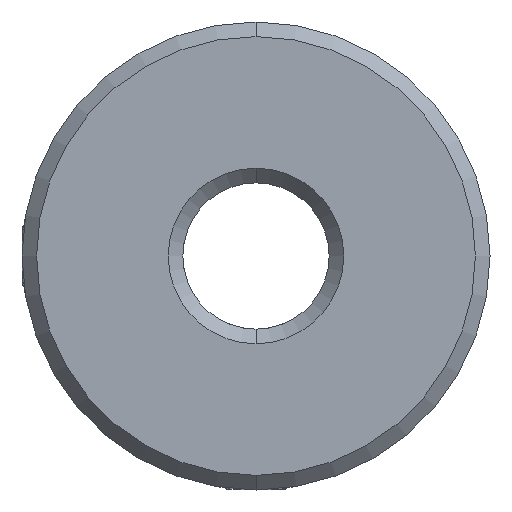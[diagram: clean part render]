
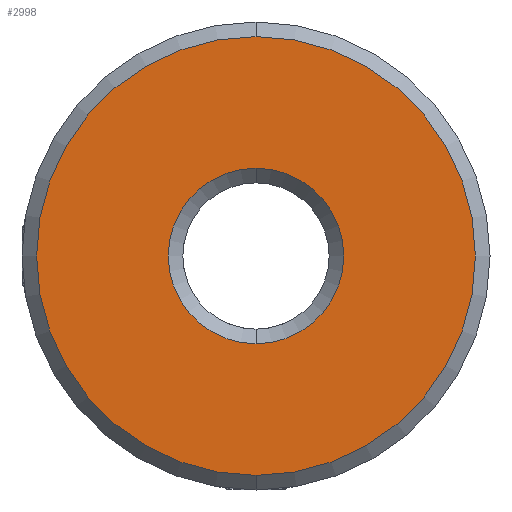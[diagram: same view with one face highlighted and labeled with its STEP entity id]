
A CAD part, front view. The second image highlights one B-rep face of the part: STEP entity #2998.
In plain terms, the highlighted planar face has unit normal (0, -1, 0).
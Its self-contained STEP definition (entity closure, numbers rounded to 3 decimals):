
#2 = EDGE_CURVE ( 'NONE', #2264, #1281, #2505, .T. ) ;
#184 = DIRECTION ( 'NONE',  ( 0., 0., 1. ) ) ;
#228 = CARTESIAN_POINT ( 'NONE',  ( -10.188, -12.277, -2.954 ) ) ;
#344 = DIRECTION ( 'NONE',  ( 0., 1., 0. ) ) ;
#420 = CARTESIAN_POINT ( 'NONE',  ( -10.188, -12.277, 0.046 ) ) ;
#486 = CARTESIAN_POINT ( 'NONE',  ( -10.188, -12.277, 0.046 ) ) ;
#494 = CARTESIAN_POINT ( 'NONE',  ( -10.188, -12.277, -7.454 ) ) ;
#504 = AXIS2_PLACEMENT_3D ( 'NONE', #486, #1026, #184 ) ;
#592 = ORIENTED_EDGE ( 'NONE', *, *, #2544, .T. ) ;
#684 = CIRCLE ( 'NONE', #3513, 7.5 ) ;
#692 = AXIS2_PLACEMENT_3D ( 'NONE', #420, #344, #2331 ) ;
#929 = PLANE ( 'NONE',  #692 ) ;
#931 = CARTESIAN_POINT ( 'NONE',  ( -10.188, -12.277, 3.046 ) ) ;
#945 = FACE_BOUND ( 'NONE', #3453, .T. ) ;
#1026 = DIRECTION ( 'NONE',  ( 0., -1., 0. ) ) ;
#1088 = ORIENTED_EDGE ( 'NONE', *, *, #2133, .T. ) ;
#1281 = VERTEX_POINT ( 'NONE', #931 ) ;
#1311 = DIRECTION ( 'NONE',  ( 0., 0., 1. ) ) ;
#1568 = CIRCLE ( 'NONE', #504, 7.5 ) ;
#1722 = ORIENTED_EDGE ( 'NONE', *, *, #2, .T. ) ;
#1882 = EDGE_CURVE ( 'NONE', #1281, #2264, #2337, .T. ) ;
#2132 = DIRECTION ( 'NONE',  ( 0., 1., 0. ) ) ;
#2133 = EDGE_CURVE ( 'NONE', #3185, #2325, #684, .T. ) ;
#2146 = DIRECTION ( 'NONE',  ( 0., 1., 0. ) ) ;
#2264 = VERTEX_POINT ( 'NONE', #228 ) ;
#2325 = VERTEX_POINT ( 'NONE', #3062 ) ;
#2329 = DIRECTION ( 'NONE',  ( 0., -1., 0. ) ) ;
#2331 = DIRECTION ( 'NONE',  ( 0., 0., 1. ) ) ;
#2337 = CIRCLE ( 'NONE', #3563, 3. ) ;
#2381 = EDGE_LOOP ( 'NONE', ( #592, #1088 ) ) ;
#2431 = CARTESIAN_POINT ( 'NONE',  ( -10.188, -12.277, 0.046 ) ) ;
#2505 = CIRCLE ( 'NONE', #2974, 3. ) ;
#2544 = EDGE_CURVE ( 'NONE', #2325, #3185, #1568, .T. ) ;
#2661 = CARTESIAN_POINT ( 'NONE',  ( -10.188, -12.277, 0.046 ) ) ;
#2945 = DIRECTION ( 'NONE',  ( 0., 0., 1. ) ) ;
#2974 = AXIS2_PLACEMENT_3D ( 'NONE', #2431, #2146, #1311 ) ;
#2998 = ADVANCED_FACE ( 'NONE', ( #3437, #945 ), #929, .F. ) ;
#3062 = CARTESIAN_POINT ( 'NONE',  ( -10.188, -12.277, 7.546 ) ) ;
#3177 = DIRECTION ( 'NONE',  ( 0., 0., 1. ) ) ;
#3185 = VERTEX_POINT ( 'NONE', #494 ) ;
#3198 = ORIENTED_EDGE ( 'NONE', *, *, #1882, .T. ) ;
#3437 = FACE_OUTER_BOUND ( 'NONE', #2381, .T. ) ;
#3453 = EDGE_LOOP ( 'NONE', ( #1722, #3198 ) ) ;
#3500 = CARTESIAN_POINT ( 'NONE',  ( -10.188, -12.277, 0.046 ) ) ;
#3513 = AXIS2_PLACEMENT_3D ( 'NONE', #2661, #2329, #3177 ) ;
#3563 = AXIS2_PLACEMENT_3D ( 'NONE', #3500, #2132, #2945 ) ;
